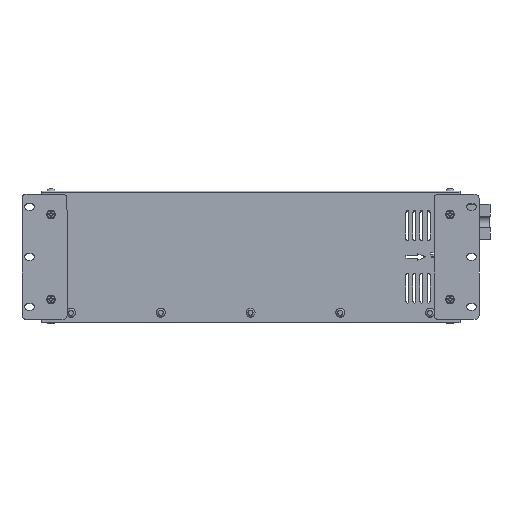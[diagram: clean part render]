
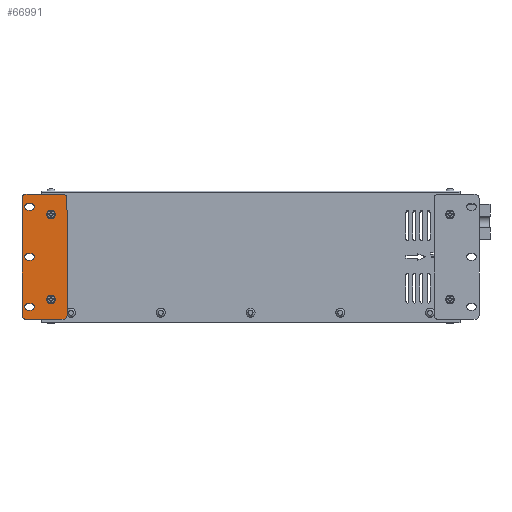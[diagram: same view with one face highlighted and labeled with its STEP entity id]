
A CAD part, top view. The second image highlights one B-rep face of the part: STEP entity #66991.
In plain terms, the highlighted planar face has unit normal (0, 0, 1).
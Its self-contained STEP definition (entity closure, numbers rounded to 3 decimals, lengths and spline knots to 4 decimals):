
#2726=FACE_BOUND('',#21438,.T.);
#2727=FACE_BOUND('',#21439,.T.);
#2728=FACE_BOUND('',#21440,.T.);
#2729=FACE_BOUND('',#21441,.T.);
#2730=FACE_BOUND('',#21442,.T.);
#3503=PLANE('',#70332);
#5959=LINE('',#94735,#11786);
#5975=LINE('',#94787,#11802);
#5976=LINE('',#94791,#11803);
#5977=LINE('',#94795,#11804);
#5978=LINE('',#94802,#11805);
#5979=LINE('',#94806,#11806);
#5980=LINE('',#94810,#11807);
#5981=LINE('',#94814,#11808);
#5982=LINE('',#94818,#11809);
#5983=LINE('',#94822,#11810);
#11786=VECTOR('',#76334,0.3937);
#11802=VECTOR('',#76382,0.3937);
#11803=VECTOR('',#76385,0.3937);
#11804=VECTOR('',#76388,0.3937);
#11805=VECTOR('',#76395,0.3937);
#11806=VECTOR('',#76398,0.3937);
#11807=VECTOR('',#76401,0.3937);
#11808=VECTOR('',#76404,0.3937);
#11809=VECTOR('',#76407,0.3937);
#11810=VECTOR('',#76410,0.3937);
#18103=FACE_OUTER_BOUND('',#21437,.T.);
#21437=EDGE_LOOP('',(#45822,#45823,#45824,#45825,#45826,#45827,#45828,#45829));
#21438=EDGE_LOOP('',(#45830));
#21439=EDGE_LOOP('',(#45831,#45832,#45833,#45834));
#21440=EDGE_LOOP('',(#45835,#45836,#45837,#45838));
#21441=EDGE_LOOP('',(#45839,#45840,#45841,#45842));
#21442=EDGE_LOOP('',(#45843));
#25008=CIRCLE('',#70331,0.1673);
#25009=CIRCLE('',#70333,0.1575);
#25010=CIRCLE('',#70334,0.1575);
#25011=CIRCLE('',#70335,0.1575);
#25012=CIRCLE('',#70336,0.1575);
#25013=CIRCLE('',#70337,0.1673);
#25014=CIRCLE('',#70338,0.1299);
#25015=CIRCLE('',#70339,0.1299);
#25016=CIRCLE('',#70340,0.1299);
#25017=CIRCLE('',#70341,0.1299);
#25018=CIRCLE('',#70342,0.1299);
#25019=CIRCLE('',#70343,0.1299);
#27482=VERTEX_POINT('',#94732);
#27483=VERTEX_POINT('',#94734);
#27501=VERTEX_POINT('',#94781);
#27502=VERTEX_POINT('',#94785);
#27503=VERTEX_POINT('',#94786);
#27504=VERTEX_POINT('',#94788);
#27505=VERTEX_POINT('',#94790);
#27506=VERTEX_POINT('',#94792);
#27507=VERTEX_POINT('',#94794);
#27508=VERTEX_POINT('',#94798);
#27509=VERTEX_POINT('',#94800);
#27510=VERTEX_POINT('',#94801);
#27511=VERTEX_POINT('',#94803);
#27512=VERTEX_POINT('',#94805);
#27513=VERTEX_POINT('',#94808);
#27514=VERTEX_POINT('',#94809);
#27515=VERTEX_POINT('',#94811);
#27516=VERTEX_POINT('',#94813);
#27517=VERTEX_POINT('',#94816);
#27518=VERTEX_POINT('',#94817);
#27519=VERTEX_POINT('',#94819);
#27520=VERTEX_POINT('',#94821);
#34787=EDGE_CURVE('',#27482,#27483,#5959,.T.);
#34811=EDGE_CURVE('',#27501,#27501,#25008,.T.);
#34812=EDGE_CURVE('',#27502,#27503,#5975,.T.);
#34813=EDGE_CURVE('',#27504,#27502,#25009,.T.);
#34814=EDGE_CURVE('',#27505,#27504,#5976,.T.);
#34815=EDGE_CURVE('',#27506,#27505,#25010,.T.);
#34816=EDGE_CURVE('',#27507,#27506,#5977,.T.);
#34817=EDGE_CURVE('',#27483,#27507,#25011,.T.);
#34818=EDGE_CURVE('',#27503,#27482,#25012,.T.);
#34819=EDGE_CURVE('',#27508,#27508,#25013,.T.);
#34820=EDGE_CURVE('',#27509,#27510,#5978,.T.);
#34821=EDGE_CURVE('',#27511,#27509,#25014,.T.);
#34822=EDGE_CURVE('',#27512,#27511,#5979,.T.);
#34823=EDGE_CURVE('',#27510,#27512,#25015,.T.);
#34824=EDGE_CURVE('',#27513,#27514,#5980,.T.);
#34825=EDGE_CURVE('',#27515,#27513,#25016,.T.);
#34826=EDGE_CURVE('',#27516,#27515,#5981,.T.);
#34827=EDGE_CURVE('',#27514,#27516,#25017,.T.);
#34828=EDGE_CURVE('',#27517,#27518,#5982,.T.);
#34829=EDGE_CURVE('',#27519,#27517,#25018,.T.);
#34830=EDGE_CURVE('',#27520,#27519,#5983,.T.);
#34831=EDGE_CURVE('',#27518,#27520,#25019,.T.);
#45822=ORIENTED_EDGE('',*,*,#34812,.F.);
#45823=ORIENTED_EDGE('',*,*,#34813,.F.);
#45824=ORIENTED_EDGE('',*,*,#34814,.F.);
#45825=ORIENTED_EDGE('',*,*,#34815,.F.);
#45826=ORIENTED_EDGE('',*,*,#34816,.F.);
#45827=ORIENTED_EDGE('',*,*,#34817,.F.);
#45828=ORIENTED_EDGE('',*,*,#34787,.F.);
#45829=ORIENTED_EDGE('',*,*,#34818,.F.);
#45830=ORIENTED_EDGE('',*,*,#34819,.F.);
#45831=ORIENTED_EDGE('',*,*,#34820,.F.);
#45832=ORIENTED_EDGE('',*,*,#34821,.F.);
#45833=ORIENTED_EDGE('',*,*,#34822,.F.);
#45834=ORIENTED_EDGE('',*,*,#34823,.F.);
#45835=ORIENTED_EDGE('',*,*,#34824,.F.);
#45836=ORIENTED_EDGE('',*,*,#34825,.F.);
#45837=ORIENTED_EDGE('',*,*,#34826,.F.);
#45838=ORIENTED_EDGE('',*,*,#34827,.F.);
#45839=ORIENTED_EDGE('',*,*,#34828,.F.);
#45840=ORIENTED_EDGE('',*,*,#34829,.F.);
#45841=ORIENTED_EDGE('',*,*,#34830,.F.);
#45842=ORIENTED_EDGE('',*,*,#34831,.F.);
#45843=ORIENTED_EDGE('',*,*,#34811,.F.);
#66991=ADVANCED_FACE('',(#18103,#2726,#2727,#2728,#2729,#2730),#3503,.F.);
#70331=AXIS2_PLACEMENT_3D('',#94783,#76378,#76379);
#70332=AXIS2_PLACEMENT_3D('',#94784,#76380,#76381);
#70333=AXIS2_PLACEMENT_3D('',#94789,#76383,#76384);
#70334=AXIS2_PLACEMENT_3D('',#94793,#76386,#76387);
#70335=AXIS2_PLACEMENT_3D('',#94796,#76389,#76390);
#70336=AXIS2_PLACEMENT_3D('',#94797,#76391,#76392);
#70337=AXIS2_PLACEMENT_3D('',#94799,#76393,#76394);
#70338=AXIS2_PLACEMENT_3D('',#94804,#76396,#76397);
#70339=AXIS2_PLACEMENT_3D('',#94807,#76399,#76400);
#70340=AXIS2_PLACEMENT_3D('',#94812,#76402,#76403);
#70341=AXIS2_PLACEMENT_3D('',#94815,#76405,#76406);
#70342=AXIS2_PLACEMENT_3D('',#94820,#76408,#76409);
#70343=AXIS2_PLACEMENT_3D('',#94823,#76411,#76412);
#76334=DIRECTION('',(0.,-1.,0.));
#76378=DIRECTION('center_axis',(0.,0.,
1.));
#76379=DIRECTION('ref_axis',(-1.,0.,0.));
#76380=DIRECTION('center_axis',(0.,0.,
-1.));
#76381=DIRECTION('ref_axis',(0.,-1.,0.));
#76382=DIRECTION('',(1.,0.,0.));
#76383=DIRECTION('center_axis',(0.,0.,
-1.));
#76384=DIRECTION('ref_axis',(-1.,0.,0.));
#76385=DIRECTION('',(0.,1.,0.));
#76386=DIRECTION('center_axis',(0.,0.,
-1.));
#76387=DIRECTION('ref_axis',(0.,-1.,0.));
#76388=DIRECTION('',(-1.,0.,0.));
#76389=DIRECTION('center_axis',(0.,0.,
-1.));
#76390=DIRECTION('ref_axis',(1.,0.,0.));
#76391=DIRECTION('center_axis',(0.,0.,
-1.));
#76392=DIRECTION('ref_axis',(0.,1.,0.));
#76393=DIRECTION('center_axis',(0.,0.,
1.));
#76394=DIRECTION('ref_axis',(-1.,0.,0.));
#76395=DIRECTION('',(-1.,0.,0.));
#76396=DIRECTION('center_axis',(0.,0.,
1.));
#76397=DIRECTION('ref_axis',(0.,-1.,0.));
#76398=DIRECTION('',(1.,0.,0.));
#76399=DIRECTION('center_axis',(0.,0.,
1.));
#76400=DIRECTION('ref_axis',(0.,1.,0.));
#76401=DIRECTION('',(-1.,0.,0.));
#76402=DIRECTION('center_axis',(0.,0.,
1.));
#76403=DIRECTION('ref_axis',(0.,-1.,0.));
#76404=DIRECTION('',(1.,0.,0.));
#76405=DIRECTION('center_axis',(0.,0.,
1.));
#76406=DIRECTION('ref_axis',(0.,1.,0.));
#76407=DIRECTION('',(-1.,0.,0.));
#76408=DIRECTION('center_axis',(0.,0.,
1.));
#76409=DIRECTION('ref_axis',(0.,-1.,0.));
#76410=DIRECTION('',(1.,0.,0.));
#76411=DIRECTION('center_axis',(0.,0.,
1.));
#76412=DIRECTION('ref_axis',(0.,1.,0.));
#94732=CARTESIAN_POINT('',(-15.8143,4.8947,-0.1204));
#94734=CARTESIAN_POINT('',(-15.8143,0.2884,-0.1204));
#94735=CARTESIAN_POINT('',(-15.8143,4.8947,-0.1204));
#94781=CARTESIAN_POINT('',(-16.2769,4.2648,-0.1204));
#94783=CARTESIAN_POINT('Origin',(-16.4442,4.2648,-0.1204));
#94784=CARTESIAN_POINT('Origin',(-16.7001,2.5915,-0.1204));
#94785=CARTESIAN_POINT('',(-17.4285,5.0522,-0.1204));
#94786=CARTESIAN_POINT('',(-15.9718,5.0522,-0.1204));
#94787=CARTESIAN_POINT('',(-17.4285,5.0522,-0.1204));
#94788=CARTESIAN_POINT('',(-17.5859,4.8947,-0.1204));
#94789=CARTESIAN_POINT('Origin',(-17.4285,4.8947,-0.1204));
#94790=CARTESIAN_POINT('',(-17.5859,0.2884,-0.1204));
#94791=CARTESIAN_POINT('',(-17.5859,0.2884,-0.1204));
#94792=CARTESIAN_POINT('',(-17.4285,0.1309,-0.1204));
#94793=CARTESIAN_POINT('Origin',(-17.4285,0.2884,-0.1204));
#94794=CARTESIAN_POINT('',(-15.9718,0.1309,-0.1204));
#94795=CARTESIAN_POINT('',(-15.9718,0.1309,-0.1204));
#94796=CARTESIAN_POINT('Origin',(-15.9718,0.2884,-0.1204));
#94797=CARTESIAN_POINT('Origin',(-15.9718,4.8947,-0.1204));
#94798=CARTESIAN_POINT('',(-16.2769,0.9183,-0.1204));
#94799=CARTESIAN_POINT('Origin',(-16.4442,0.9183,-0.1204));
#94800=CARTESIAN_POINT('',(-17.2316,4.69,-0.1204));
#94801=CARTESIAN_POINT('',(-17.3497,4.69,-0.1204));
#94802=CARTESIAN_POINT('',(-17.2316,4.69,-0.1204));
#94803=CARTESIAN_POINT('',(-17.2316,4.4301,-0.1204));
#94804=CARTESIAN_POINT('Origin',(-17.2316,4.56,-0.1204));
#94805=CARTESIAN_POINT('',(-17.3497,4.4301,-0.1204));
#94806=CARTESIAN_POINT('',(-17.3497,4.4301,-0.1204));
#94807=CARTESIAN_POINT('Origin',(-17.3497,4.56,-0.1204));
#94808=CARTESIAN_POINT('',(-17.2316,2.7215,-0.1204));
#94809=CARTESIAN_POINT('',(-17.3497,2.7215,-0.1204));
#94810=CARTESIAN_POINT('',(-17.2316,2.7215,-0.1204));
#94811=CARTESIAN_POINT('',(-17.2316,2.4616,-0.1204));
#94812=CARTESIAN_POINT('Origin',(-17.2316,2.5915,-0.1204));
#94813=CARTESIAN_POINT('',(-17.3497,2.4616,-0.1204));
#94814=CARTESIAN_POINT('',(-17.3497,2.4616,-0.1204));
#94815=CARTESIAN_POINT('Origin',(-17.3497,2.5915,-0.1204));
#94816=CARTESIAN_POINT('',(-17.2316,0.753,-0.1204));
#94817=CARTESIAN_POINT('',(-17.3497,0.753,-0.1204));
#94818=CARTESIAN_POINT('',(-17.2316,0.753,-0.1204));
#94819=CARTESIAN_POINT('',(-17.2316,0.4931,-0.1204));
#94820=CARTESIAN_POINT('Origin',(-17.2316,0.623,-0.1204));
#94821=CARTESIAN_POINT('',(-17.3497,0.4931,-0.1204));
#94822=CARTESIAN_POINT('',(-17.3497,0.4931,-0.1204));
#94823=CARTESIAN_POINT('Origin',(-17.3497,0.623,-0.1204));
